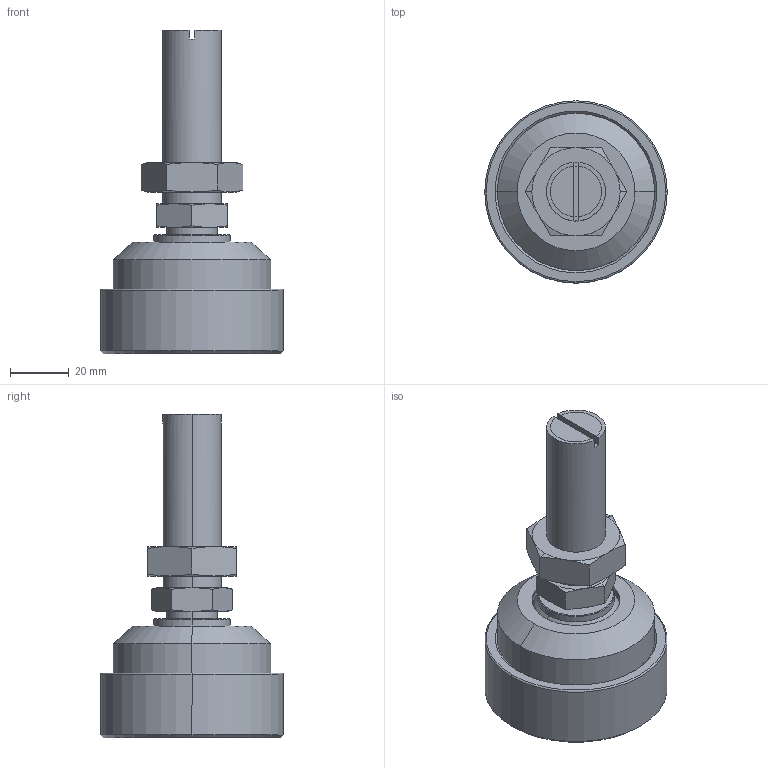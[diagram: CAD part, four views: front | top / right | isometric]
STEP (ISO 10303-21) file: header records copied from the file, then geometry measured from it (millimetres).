
FILE_DESCRIPTION((''),'1');
FILE_NAME('LALAH_M20_zinc-plated.step','2020-05-13T09:24:17',(''),(''),'','','');
FILE_SCHEMA(('AUTOMOTIVE_DESIGN { 1 0 10303 214 1 1 1 1 }'));
Products named in the file (4): LALAH M20_zinc-plated; LALAH nut 01; LALAH part 02; LALAH base 01
Assembly tree (3 placements, depth 2):
  LALAH M20_zinc-plated
    LALAH nut 01
    LALAH part 02
    LALAH base 01
Bounding box: 62 x 62 x 110 mm (x, y, z)
Volume: 115574 mm3; surface area: 39075 mm2
Topology: 3 solids, 4 shells, 100 faces, 218 edges, 132 vertices
Faces by surface type: cone 44, plane 30, cylinder 22, torus 4
Entity records: 2790 total; most frequent: CARTESIAN_POINT 550, DIRECTION 482, ORIENTED_EDGE 424, EDGE_CURVE 218, AXIS2_PLACEMENT_3D 208, VERTEX_POINT 132, EDGE_LOOP 110, CIRCLE 104
